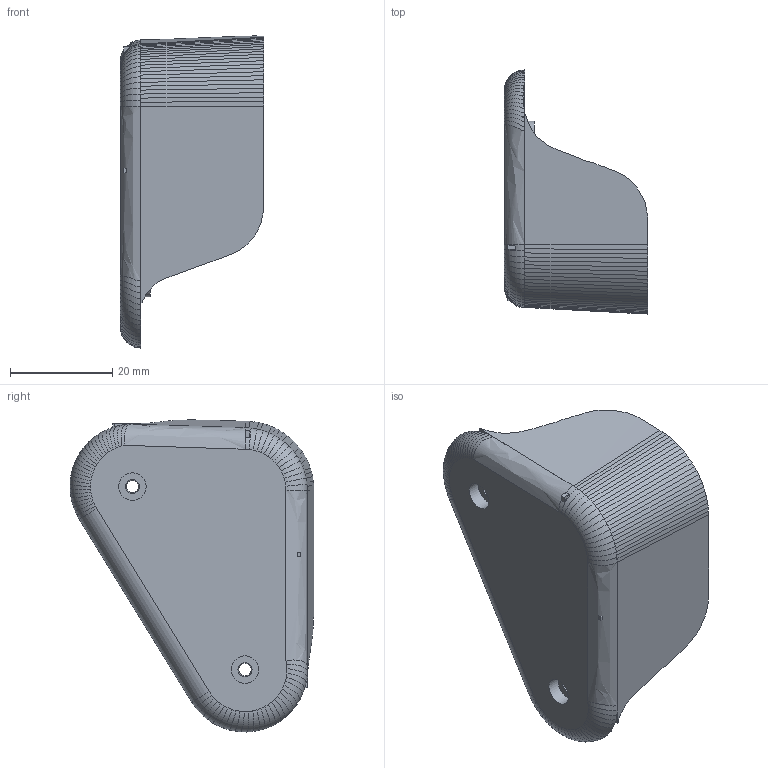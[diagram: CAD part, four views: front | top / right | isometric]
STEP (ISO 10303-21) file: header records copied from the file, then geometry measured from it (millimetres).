
FILE_DESCRIPTION(('FreeCAD Model'),'2;1');
FILE_NAME('Open CASCADE Shape Model','2026-09-09T20:58:36',('Author'),( ''),'Open CASCADE STEP processor 7.8','FreeCAD','Unknown');
FILE_SCHEMA(('AUTOMOTIVE_DESIGN { 1 0 10303 214 1 1 1 1 }'));
Length unit declared in the file: millimetre
Products named in the file (1): microduck-upper-leg-right
Bounding box: 28 x 47.66 x 60.98 mm (x, y, z)
Volume: 4226.3 mm3; surface area: 9326.6 mm2
Topology: 1 solids, 1 shells, 1530 faces, 2879 edges, 1364 vertices
Faces by surface type: plane 1378, bspline 125, cylinder 21, cone 6
Full cylindrical faces by diameter (mm): 4.42 x3, 5.37 x2, 7.27 x2
Entity records: 37259 total; most frequent: CARTESIAN_POINT 8985, ORIENTED_EDGE 5758, DIRECTION 5441, EDGE_CURVE 2879, LINE 2421, VECTOR 2421, FACE_BOUND 1549, EDGE_LOOP 1549
